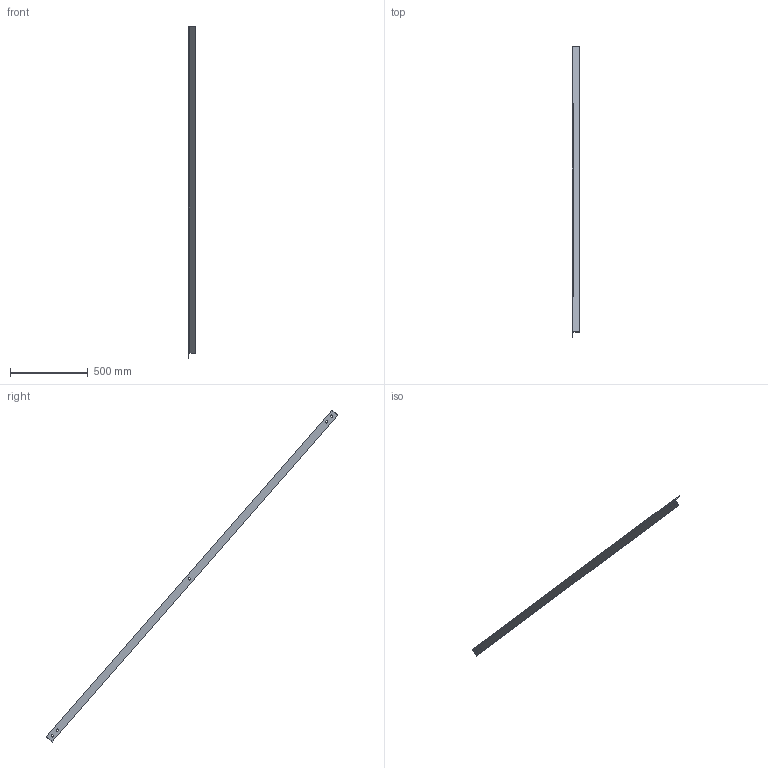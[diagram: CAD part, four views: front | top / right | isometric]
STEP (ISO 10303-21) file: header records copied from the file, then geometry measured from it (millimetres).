
FILE_DESCRIPTION (( 'STEP AP214' ), '1' );
FILE_NAME ('CCJ029-REP.051 - CONTREVENTEMENT A1-B1.STEP', '2024-01-10T14:41:55', ( '' ), ( '' ), 'SwSTEP 2.0', 'SolidWorks 2021', '' );
FILE_SCHEMA (( 'AUTOMOTIVE_DESIGN' ));
Length unit declared in the file: millimetre
Products named in the file (1): CCJ029-REP.051 - CONTREVENTEMENT A1-B1
Bounding box: 50 x 1873.21 x 2134.59 mm (x, y, z)
Volume: 1336268.1 mm3; surface area: 541835.8 mm2
Topology: 1 solids, 1 shells, 21 faces, 57 edges, 38 vertices
Faces by surface type: cylinder 13, plane 8
Entity records: 731 total; most frequent: DIRECTION 127, CARTESIAN_POINT 117, ORIENTED_EDGE 114, EDGE_CURVE 57, AXIS2_PLACEMENT_3D 48, VERTEX_POINT 38, EDGE_LOOP 31, VECTOR 31
